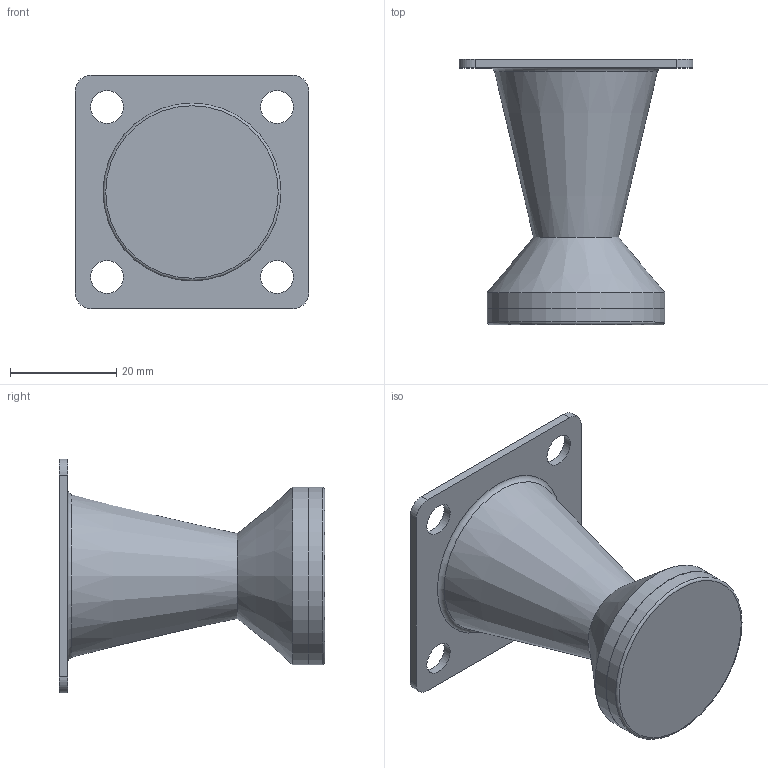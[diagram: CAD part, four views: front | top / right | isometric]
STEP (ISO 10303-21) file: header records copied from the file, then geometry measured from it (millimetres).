
FILE_DESCRIPTION (( 'STEP AP214' ), '1' );
FILE_NAME ('Nožka nábytková S54 50mm_3D.STEP', '2020-01-27T12:48:07', ( '' ), ( '' ), 'SwSTEP 2.0', 'SolidWorks 2019', '' );
FILE_SCHEMA (( 'AUTOMOTIVE_DESIGN' ));
Length unit declared in the file: millimetre
Products named in the file (1): Nožka nábytková S54 50mm_3D
Bounding box: 44 x 50 x 44 mm (x, y, z)
Volume: 16084 mm3; surface area: 9955.1 mm2
Topology: 1 solids, 1 shells, 27 faces, 58 edges, 37 vertices
Faces by surface type: cylinder 12, plane 10, cone 3, torus 2
Full cylindrical faces by diameter (mm): 6.2 x4, 27.713 x1, 33.46 x1, 33.5 x2
Entity records: 726 total; most frequent: DIRECTION 130, CARTESIAN_POINT 110, ORIENTED_EDGE 90, AXIS2_PLACEMENT_3D 57, EDGE_LOOP 52, EDGE_CURVE 45, VERTEX_POINT 37, FACE_OUTER_BOUND 37
